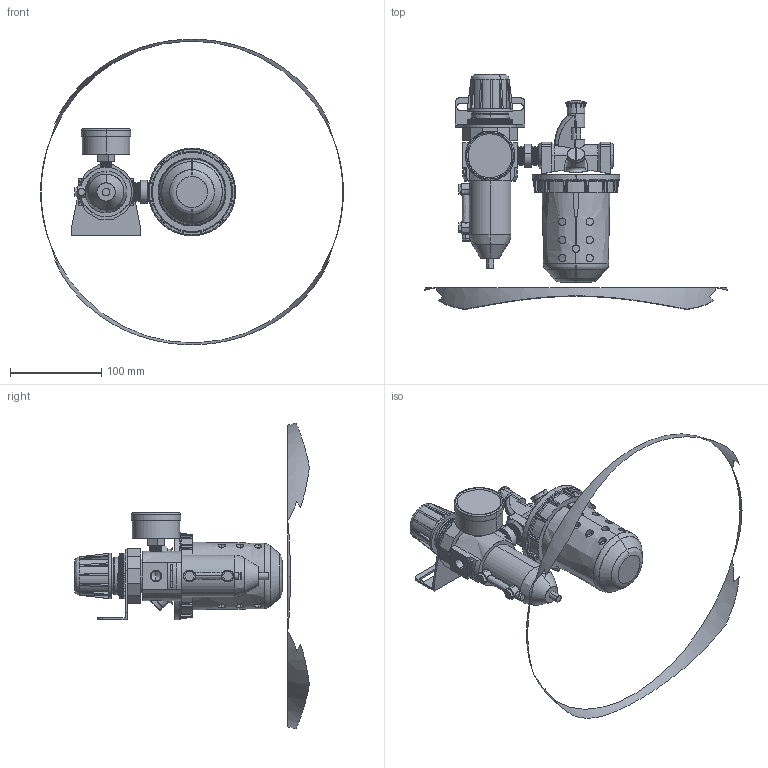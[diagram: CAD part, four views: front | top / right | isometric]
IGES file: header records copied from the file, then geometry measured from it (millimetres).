
Start section: SolidWorks IGES file using analytic representation for surfaces
Global section: file name: D:\Custom\3D繪製\FRL\BL系列\U658-04#YB#.IGS; native system: SolidWorks 2014; preprocessor: SolidWorks 2014; author: Chieh_Lu; date: 160115.011711; units: millimetre
Bounding box: 331.4 x 256.89 x 334.08 mm (x, y, z)
Surface area: 151673.3 mm2 (no closed solid volume)
Topology: 0 solids, 0 shells, 1225 faces, 15432 edges, 15420 vertices
Faces by surface type: bspline 799, revolution 426
